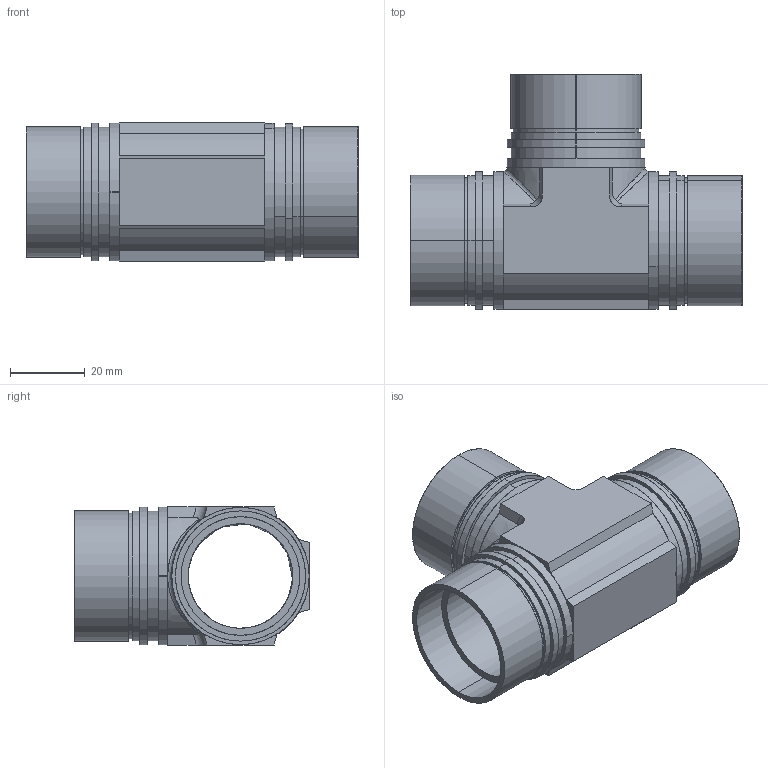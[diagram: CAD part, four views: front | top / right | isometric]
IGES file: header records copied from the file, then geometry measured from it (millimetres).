
Start section: SolidWorks IGES file using analytic representation for surfaces
Global section: file name: Part13^70-31.8UE-P.IGS; native system: SolidWorks 2012; preprocessor: SolidWorks 2012; author: harada; date: 130919.111051; units: millimetre
Bounding box: 89 x 63 x 37 mm (x, y, z)
Surface area: 25757 mm2 (no closed solid volume)
Topology: 0 solids, 0 shells, 101 faces, 3544 edges, 3544 vertices
Faces by surface type: revolution 60, bspline 41
